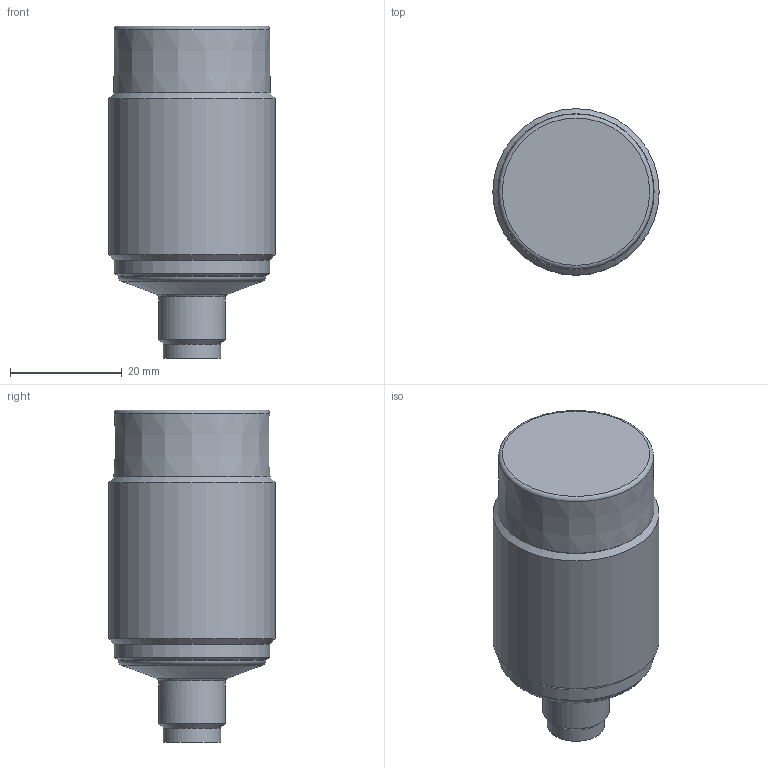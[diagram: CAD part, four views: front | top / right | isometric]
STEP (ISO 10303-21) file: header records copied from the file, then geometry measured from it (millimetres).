
FILE_DESCRIPTION(/* description */ (''),/* implementation_level */ '2;1');
FILE_NAME(/* name */ 'Z:\PG_031_033_365_369\031\progetti\_assemblies 3D\Contorno semplificato\ICS30 IP69K\ics30_short_no_flush_asm.stp',/* time_stamp */ '2015-05-07T15:32:17+02:00',/* author */ ('ddecol'),/* organization */ (''),/* preprocessor_version */ 'ST-DEVELOPER v15.6',/* originating_system */ 'Autodesk Inventor 2015',/* authorisation */ '');
FILE_SCHEMA (('AUTOMOTIVE_DESIGN { 1 0 10303 214 3 1 1 }'));
Length unit declared in the file: millimetre
Products named in the file (1): ics30_short_no_flush_asm
Bounding box: 29.8 x 29.8 x 59.5 mm (x, y, z)
Surface area: 6218.1 mm2 (no closed solid volume)
Topology: 0 solids, 7 shells, 35 faces, 137 edges, 107 vertices
Faces by surface type: cone 10, cylinder 10, plane 7, sphere 5, torus 3
Full cylindrical faces by diameter (mm): 1 x4, 10.3 x1, 12 x1, 27.8 x1, 29.8 x1
Entity records: 1714 total; most frequent: CARTESIAN_POINT 747, DIRECTION 187, ORIENTED_EDGE 138, EDGE_CURVE 95, AXIS2_PLACEMENT_3D 88, VERTEX_POINT 86, EDGE_LOOP 59, CIRCLE 44
